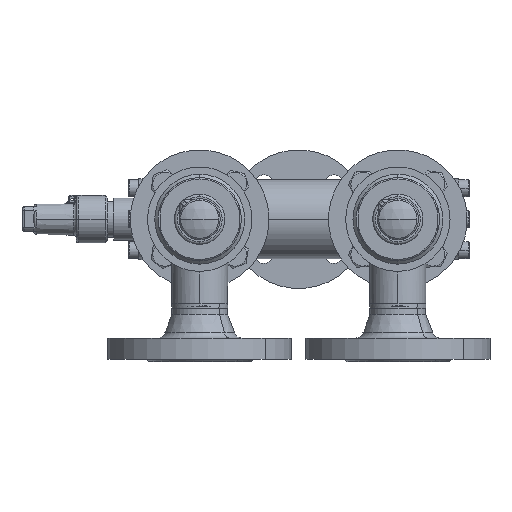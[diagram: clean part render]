
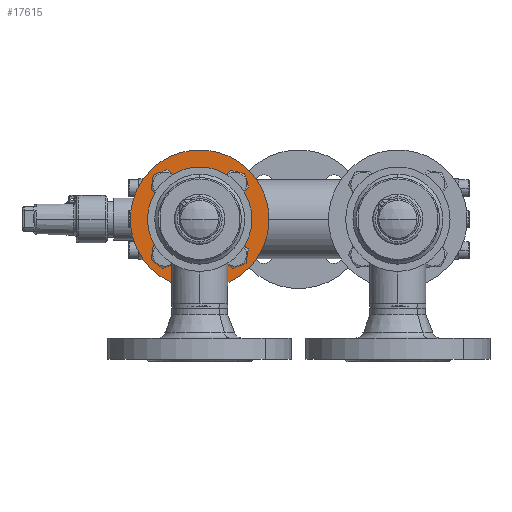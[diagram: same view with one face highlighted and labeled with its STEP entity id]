
A CAD part, left-side view. The second image highlights one B-rep face of the part: STEP entity #17615.
In plain terms, the highlighted planar face has unit normal (-1, 0, 0) as drawn and (0, 1, 0) by its records, which use the part's own axes.
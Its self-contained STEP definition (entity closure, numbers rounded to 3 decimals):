
#116 = VERTEX_POINT ( 'NONE', #34210 ) ;
#32913 = CIRCLE ( 'NONE', #32914, 7. ) ;
#32914 = AXIS2_PLACEMENT_3D ( 'NONE', #32915, #32916, #32942 ) ;
#32915 = CARTESIAN_POINT ( 'NONE',  ( 0., 18., -37.5 ) ) ;
#32916 = DIRECTION ( 'NONE',  ( 0., 1., 0. ) ) ;
#32942 = DIRECTION ( 'NONE',  ( 0., 0., 1. ) ) ;
#542 = ORIENTED_EDGE ( 'NONE', *, *, #18434, .F. ) ;
#33349 = EDGE_LOOP ( 'NONE', ( #32276, #30430 ) ) ;
#17103 = EDGE_LOOP ( 'NONE', ( #36194, #33837 ) ) ;
#33837 = ORIENTED_EDGE ( 'NONE', *, *, #30200, .F. ) ;
#17615 = ADVANCED_FACE ( 'NONE', ( #35132, #35133, #35134, #35135, #35136, #35177 ), #35178, .F. ) ;
#34210 = CARTESIAN_POINT ( 'NONE',  ( -30.5, 18., 0. ) ) ;
#18434 = EDGE_CURVE ( 'NONE', #6108, #8423, #37420, .T. ) ;
#35132 = FACE_BOUND ( 'NONE', #17103, .T. ) ;
#35133 = FACE_BOUND ( 'NONE', #33349, .T. ) ;
#35134 = FACE_BOUND ( 'NONE', #29936, .T. ) ;
#35135 = FACE_BOUND ( 'NONE', #26509, .T. ) ;
#35136 = FACE_BOUND ( 'NONE', #2552, .T. ) ;
#35177 = FACE_OUTER_BOUND ( 'NONE', #42010, .T. ) ;
#35178 = PLANE ( 'NONE',  #35179 ) ;
#35179 = AXIS2_PLACEMENT_3D ( 'NONE', #35180, #35181, #35182 ) ;
#35180 = CARTESIAN_POINT ( 'NONE',  ( 52.5, 18., 0. ) ) ;
#35181 = DIRECTION ( 'NONE',  ( 0., -1., 0. ) ) ;
#35182 = DIRECTION ( 'NONE',  ( 1., 0., 0. ) ) ;
#35209 = EDGE_CURVE ( 'NONE', #29742, #32048, #32913, .T. ) ;
#2552 = EDGE_LOOP ( 'NONE', ( #542, #42720 ) ) ;
#19230 = CIRCLE ( 'NONE', #19231, 7. ) ;
#19231 = AXIS2_PLACEMENT_3D ( 'NONE', #19232, #19233, #19234 ) ;
#19232 = CARTESIAN_POINT ( 'NONE',  ( 0., 18., 37.5 ) ) ;
#19233 = DIRECTION ( 'NONE',  ( 0., 1., 0. ) ) ;
#19234 = DIRECTION ( 'NONE',  ( 0., 0., -1. ) ) ;
#3262 = ORIENTED_EDGE ( 'NONE', *, *, #30357, .F. ) ;
#36194 = ORIENTED_EDGE ( 'NONE', *, *, #35209, .F. ) ;
#36719 = CARTESIAN_POINT ( 'NONE',  ( -52.5, 18., 0. ) ) ;
#37223 = VERTEX_POINT ( 'NONE', #36719 ) ;
#37420 = CIRCLE ( 'NONE', #37421, 22.685 ) ;
#37421 = AXIS2_PLACEMENT_3D ( 'NONE', #37459, #37460, #37461 ) ;
#37459 = CARTESIAN_POINT ( 'NONE',  ( 0., 18., 0. ) ) ;
#37460 = DIRECTION ( 'NONE',  ( 0., 1., 0. ) ) ;
#37461 = DIRECTION ( 'NONE',  ( -1., 0., 0. ) ) ;
#4786 = EDGE_CURVE ( 'NONE', #29899, #32203, #39846, .T. ) ;
#37702 = CIRCLE ( 'NONE', #37703, 52.5 ) ;
#37703 = AXIS2_PLACEMENT_3D ( 'NONE', #37704, #37705, #37706 ) ;
#37704 = CARTESIAN_POINT ( 'NONE',  ( 0., 18., 0. ) ) ;
#37705 = DIRECTION ( 'NONE',  ( 0., 1., 0. ) ) ;
#37706 = DIRECTION ( 'NONE',  ( -1., 0., 0. ) ) ;
#37767 = EDGE_CURVE ( 'NONE', #40488, #37223, #37702, .T. ) ;
#37880 = EDGE_CURVE ( 'NONE', #37223, #40488, #38021, .T. ) ;
#38021 = CIRCLE ( 'NONE', #38022, 52.5 ) ;
#38022 = AXIS2_PLACEMENT_3D ( 'NONE', #38023, #38024, #38025 ) ;
#38023 = CARTESIAN_POINT ( 'NONE',  ( 0., 18., 0. ) ) ;
#38024 = DIRECTION ( 'NONE',  ( 0., 1., 0. ) ) ;
#38025 = DIRECTION ( 'NONE',  ( -1., 0., 0. ) ) ;
#5640 = ORIENTED_EDGE ( 'NONE', *, *, #4786, .F. ) ;
#5761 = VERTEX_POINT ( 'NONE', #41647 ) ;
#6108 = VERTEX_POINT ( 'NONE', #42682 ) ;
#38964 = ORIENTED_EDGE ( 'NONE', *, *, #37767, .T. ) ;
#6222 = EDGE_CURVE ( 'NONE', #8079, #5761, #42998, .T. ) ;
#6579 = EDGE_CURVE ( 'NONE', #8423, #6108, #11276, .T. ) ;
#39846 = CIRCLE ( 'NONE', #39847, 7. ) ;
#39847 = AXIS2_PLACEMENT_3D ( 'NONE', #39848, #39889, #39890 ) ;
#39848 = CARTESIAN_POINT ( 'NONE',  ( 37.5, 18., 0. ) ) ;
#39889 = DIRECTION ( 'NONE',  ( 0., 1., 0. ) ) ;
#39890 = DIRECTION ( 'NONE',  ( -1., 0., 0. ) ) ;
#40481 = ORIENTED_EDGE ( 'NONE', *, *, #37880, .T. ) ;
#40488 = VERTEX_POINT ( 'NONE', #41071 ) ;
#40544 = VERTEX_POINT ( 'NONE', #41133 ) ;
#8079 = VERTEX_POINT ( 'NONE', #13262 ) ;
#41071 = CARTESIAN_POINT ( 'NONE',  ( 52.5, 18., 0. ) ) ;
#41133 = CARTESIAN_POINT ( 'NONE',  ( -44.5, 18., 0. ) ) ;
#8423 = VERTEX_POINT ( 'NONE', #13640 ) ;
#41197 = EDGE_CURVE ( 'NONE', #116, #40544, #42438, .T. ) ;
#24846 = CARTESIAN_POINT ( 'NONE',  ( -7., 18., -37.5 ) ) ;
#24954 = CARTESIAN_POINT ( 'NONE',  ( 30.5, 18., 0. ) ) ;
#25148 = CIRCLE ( 'NONE', #25149, 7. ) ;
#25149 = AXIS2_PLACEMENT_3D ( 'NONE', #25150, #25171, #25172 ) ;
#25150 = CARTESIAN_POINT ( 'NONE',  ( 0., 18., -37.5 ) ) ;
#25171 = DIRECTION ( 'NONE',  ( 0., 1., 0. ) ) ;
#25172 = DIRECTION ( 'NONE',  ( 0., 0., 1. ) ) ;
#41647 = CARTESIAN_POINT ( 'NONE',  ( -7., 18., 37.5 ) ) ;
#25309 = CIRCLE ( 'NONE', #25310, 7. ) ;
#25310 = AXIS2_PLACEMENT_3D ( 'NONE', #25311, #25335, #25336 ) ;
#25311 = CARTESIAN_POINT ( 'NONE',  ( 37.5, 18., 0. ) ) ;
#25335 = DIRECTION ( 'NONE',  ( 0., 1., 0. ) ) ;
#25336 = DIRECTION ( 'NONE',  ( -1., 0., 0. ) ) ;
#42010 = EDGE_LOOP ( 'NONE', ( #40481, #38964 ) ) ;
#42438 = CIRCLE ( 'NONE', #42439, 7. ) ;
#42439 = AXIS2_PLACEMENT_3D ( 'NONE', #42440, #42441, #42442 ) ;
#42440 = CARTESIAN_POINT ( 'NONE',  ( -37.5, 18., 0. ) ) ;
#42441 = DIRECTION ( 'NONE',  ( 0., 1., 0. ) ) ;
#42442 = DIRECTION ( 'NONE',  ( 1., 0., 0. ) ) ;
#42682 = CARTESIAN_POINT ( 'NONE',  ( -22.685, 18., 0. ) ) ;
#42720 = ORIENTED_EDGE ( 'NONE', *, *, #6579, .F. ) ;
#26509 = EDGE_LOOP ( 'NONE', ( #5640, #3262 ) ) ;
#42998 = CIRCLE ( 'NONE', #42999, 7. ) ;
#42999 = AXIS2_PLACEMENT_3D ( 'NONE', #43000, #43001, #43002 ) ;
#43000 = CARTESIAN_POINT ( 'NONE',  ( 0., 18., 37.5 ) ) ;
#43001 = DIRECTION ( 'NONE',  ( 0., 1., 0. ) ) ;
#43002 = DIRECTION ( 'NONE',  ( 0., 0., -1. ) ) ;
#27014 = ORIENTED_EDGE ( 'NONE', *, *, #6222, .F. ) ;
#27244 = CIRCLE ( 'NONE', #27245, 7. ) ;
#27245 = AXIS2_PLACEMENT_3D ( 'NONE', #27270, #27271, #27272 ) ;
#27270 = CARTESIAN_POINT ( 'NONE',  ( -37.5, 18., 0. ) ) ;
#27271 = DIRECTION ( 'NONE',  ( 0., 1., 0. ) ) ;
#27272 = DIRECTION ( 'NONE',  ( 1., 0., 0. ) ) ;
#11276 = CIRCLE ( 'NONE', #11277, 22.685 ) ;
#11277 = AXIS2_PLACEMENT_3D ( 'NONE', #11278, #11279, #11280 ) ;
#11278 = CARTESIAN_POINT ( 'NONE',  ( 0., 18., 0. ) ) ;
#11279 = DIRECTION ( 'NONE',  ( 0., 1., 0. ) ) ;
#11280 = DIRECTION ( 'NONE',  ( -1., 0., 0. ) ) ;
#28084 = EDGE_CURVE ( 'NONE', #5761, #8079, #19230, .T. ) ;
#28189 = CARTESIAN_POINT ( 'NONE',  ( 7., 18., -37.5 ) ) ;
#28350 = CARTESIAN_POINT ( 'NONE',  ( 44.5, 18., 0. ) ) ;
#28858 = ORIENTED_EDGE ( 'NONE', *, *, #28084, .F. ) ;
#13262 = CARTESIAN_POINT ( 'NONE',  ( 7., 18., 37.5 ) ) ;
#29742 = VERTEX_POINT ( 'NONE', #24846 ) ;
#29899 = VERTEX_POINT ( 'NONE', #24954 ) ;
#29936 = EDGE_LOOP ( 'NONE', ( #28858, #27014 ) ) ;
#13640 = CARTESIAN_POINT ( 'NONE',  ( 22.685, 18., 0. ) ) ;
#30200 = EDGE_CURVE ( 'NONE', #32048, #29742, #25148, .T. ) ;
#30357 = EDGE_CURVE ( 'NONE', #32203, #29899, #25309, .T. ) ;
#30430 = ORIENTED_EDGE ( 'NONE', *, *, #41197, .F. ) ;
#31508 = EDGE_CURVE ( 'NONE', #40544, #116, #27244, .T. ) ;
#32048 = VERTEX_POINT ( 'NONE', #28189 ) ;
#32203 = VERTEX_POINT ( 'NONE', #28350 ) ;
#32276 = ORIENTED_EDGE ( 'NONE', *, *, #31508, .F. ) ;
